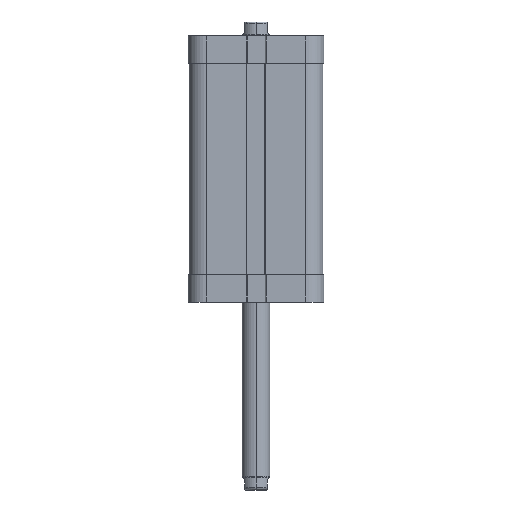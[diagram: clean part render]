
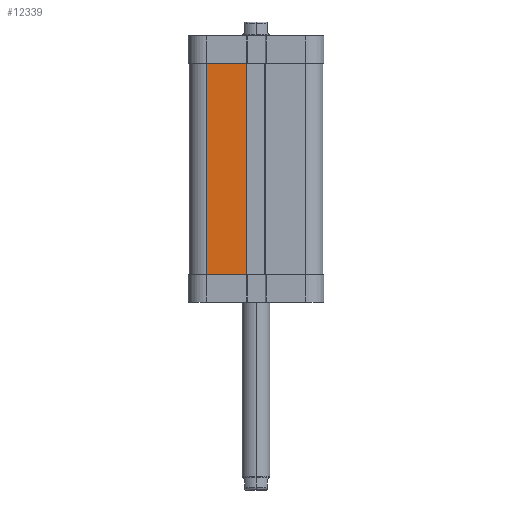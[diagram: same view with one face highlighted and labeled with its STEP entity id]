
A CAD part, left-side view. The second image highlights one B-rep face of the part: STEP entity #12339.
In plain terms, the highlighted planar face has unit normal (-1, 0, 0).
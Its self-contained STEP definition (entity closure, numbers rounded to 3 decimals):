
#8003=CARTESIAN_POINT('',(-26.75,-9.85,-11.6));
#8004=VERTEX_POINT('',#8003);
#8012=CARTESIAN_POINT('',(-26.75,13.0,-11.6));
#8013=VERTEX_POINT('',#8012);
#8014=CARTESIAN_POINT('',(-26.75,13.0,-11.6));
#8015=DIRECTION('',(0.0,-1.0,0.0));
#8016=VECTOR('',#8015,22.85);
#8017=LINE('',#8014,#8016);
#8018=EDGE_CURVE('',#8013,#8004,#8017,.T.);
#9557=CARTESIAN_POINT('',(-26.75,13.0,109.8));
#9558=VERTEX_POINT('',#9557);
#9566=CARTESIAN_POINT('',(-26.75,-9.85,109.8));
#9567=VERTEX_POINT('',#9566);
#9568=CARTESIAN_POINT('',(-26.75,-9.85,109.8));
#9569=DIRECTION('',(0.0,1.0,0.0));
#9570=VECTOR('',#9569,22.85);
#9571=LINE('',#9568,#9570);
#9572=EDGE_CURVE('',#9567,#9558,#9571,.T.);
#12259=CARTESIAN_POINT('',(-26.75,-9.85,109.8));
#12260=DIRECTION('',(0.0,0.0,-1.0));
#12261=VECTOR('',#12260,121.4);
#12262=LINE('',#12259,#12261);
#12263=EDGE_CURVE('',#9567,#8004,#12262,.T.);
#12323=CARTESIAN_POINT('',(-26.75,-43.8,-11.6));
#12324=DIRECTION('',(-1.0,0.0,0.0));
#12325=DIRECTION('',(0.0,0.0,1.0));
#12326=AXIS2_PLACEMENT_3D('',#12323,#12324,#12325);
#12327=PLANE('',#12326);
#12328=ORIENTED_EDGE('',*,*,#12263,.F.);
#12329=ORIENTED_EDGE('',*,*,#9572,.T.);
#12330=CARTESIAN_POINT('',(-26.75,13.0,-11.6));
#12331=DIRECTION('',(0.0,0.0,1.0));
#12332=VECTOR('',#12331,121.4);
#12333=LINE('',#12330,#12332);
#12334=EDGE_CURVE('',#8013,#9558,#12333,.T.);
#12335=ORIENTED_EDGE('',*,*,#12334,.F.);
#12336=ORIENTED_EDGE('',*,*,#8018,.T.);
#12337=EDGE_LOOP('',(#12328,#12329,#12335,#12336));
#12338=FACE_OUTER_BOUND('',#12337,.T.);
#12339=ADVANCED_FACE('',(#12338),#12327,.T.);
